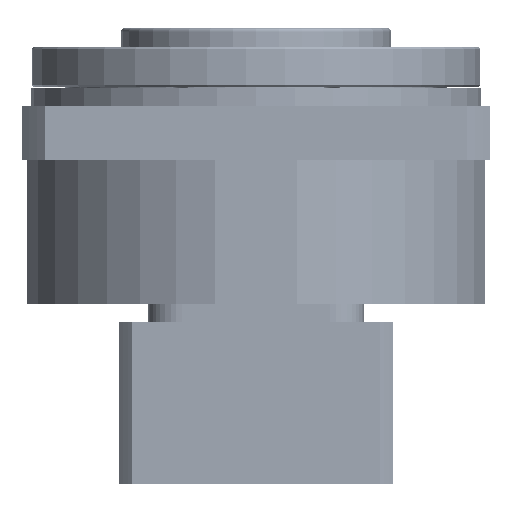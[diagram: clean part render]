
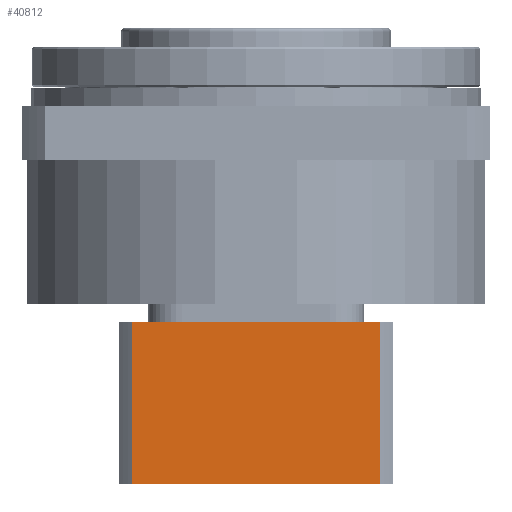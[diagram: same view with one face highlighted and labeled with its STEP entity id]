
A CAD part, left-side view. The second image highlights one B-rep face of the part: STEP entity #40812.
In plain terms, the highlighted planar face has unit normal (-1, 0, 0) as drawn and (0, 1, 0) by its records, which use the part's own axes.
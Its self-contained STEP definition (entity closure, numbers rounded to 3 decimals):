
#40456 = VERTEX_POINT ( 'NONE', #128243 ) ;
#40554 = VERTEX_POINT ( 'NONE', #128418 ) ;
#40680 = EDGE_CURVE ( 'NONE', #40456, #40554, #128466, .T. ) ;
#40698 = ORIENTED_EDGE ( 'NONE', *, *, #40703, .F. ) ;
#40699 = EDGE_CURVE ( 'NONE', #40822, #40456, #128563, .T. ) ;
#40703 = EDGE_CURVE ( 'NONE', #40822, #40815, #128517, .T. ) ;
#40729 = ORIENTED_EDGE ( 'NONE', *, *, #40680, .T. ) ;
#40748 = EDGE_LOOP ( 'NONE', ( #40729, #40820, #40698, #40826 ) ) ;
#40801 = EDGE_CURVE ( 'NONE', #40554, #40815, #128601, .T. ) ;
#40812 = ADVANCED_FACE ( 'NONE', ( #128611 ), #128610, .T. ) ;
#40815 = VERTEX_POINT ( 'NONE', #128612 ) ;
#40820 = ORIENTED_EDGE ( 'NONE', *, *, #40801, .T. ) ;
#40822 = VERTEX_POINT ( 'NONE', #128647 ) ;
#40826 = ORIENTED_EDGE ( 'NONE', *, *, #40699, .T. ) ;
#128243 = CARTESIAN_POINT ( 'NONE',  ( 34.388, 38., -45. ) ) ;
#128418 = CARTESIAN_POINT ( 'NONE',  ( -34.388, 38., -45. ) ) ;
#128466 = LINE ( 'NONE', #128530, #128529 ) ;
#128517 = LINE ( 'NONE', #128558, #128557 ) ;
#128528 = DIRECTION ( 'NONE',  ( -1., 0., 0. ) ) ;
#128529 = VECTOR ( 'NONE', #128528, 1000. ) ;
#128530 = CARTESIAN_POINT ( 'NONE',  ( 38., 38., -45. ) ) ;
#128556 = DIRECTION ( 'NONE',  ( -1., 0., 0. ) ) ;
#128557 = VECTOR ( 'NONE', #128556, 1000. ) ;
#128558 = CARTESIAN_POINT ( 'NONE',  ( 38., 38., 0. ) ) ;
#128560 = DIRECTION ( 'NONE',  ( 0., 0., -1. ) ) ;
#128561 = VECTOR ( 'NONE', #128560, 1000. ) ;
#128562 = CARTESIAN_POINT ( 'NONE',  ( 34.388, 38., -48.5 ) ) ;
#128563 = LINE ( 'NONE', #128562, #128561 ) ;
#128601 = LINE ( 'NONE', #128652, #128651 ) ;
#128602 = AXIS2_PLACEMENT_3D ( 'NONE', #128625, #128646, #128645 ) ;
#128610 = PLANE ( 'NONE',  #128602 ) ;
#128611 = FACE_OUTER_BOUND ( 'NONE', #40748, .T. ) ;
#128612 = CARTESIAN_POINT ( 'NONE',  ( -34.388, 38., 0. ) ) ;
#128625 = CARTESIAN_POINT ( 'NONE',  ( 38., 38., -45. ) ) ;
#128645 = DIRECTION ( 'NONE',  ( -1., 0., 0. ) ) ;
#128646 = DIRECTION ( 'NONE',  ( 0., 1., 0. ) ) ;
#128647 = CARTESIAN_POINT ( 'NONE',  ( 34.388, 38., 0. ) ) ;
#128650 = DIRECTION ( 'NONE',  ( 0., 0., 1. ) ) ;
#128651 = VECTOR ( 'NONE', #128650, 1000. ) ;
#128652 = CARTESIAN_POINT ( 'NONE',  ( -34.388, 38., -48.5 ) ) ;
